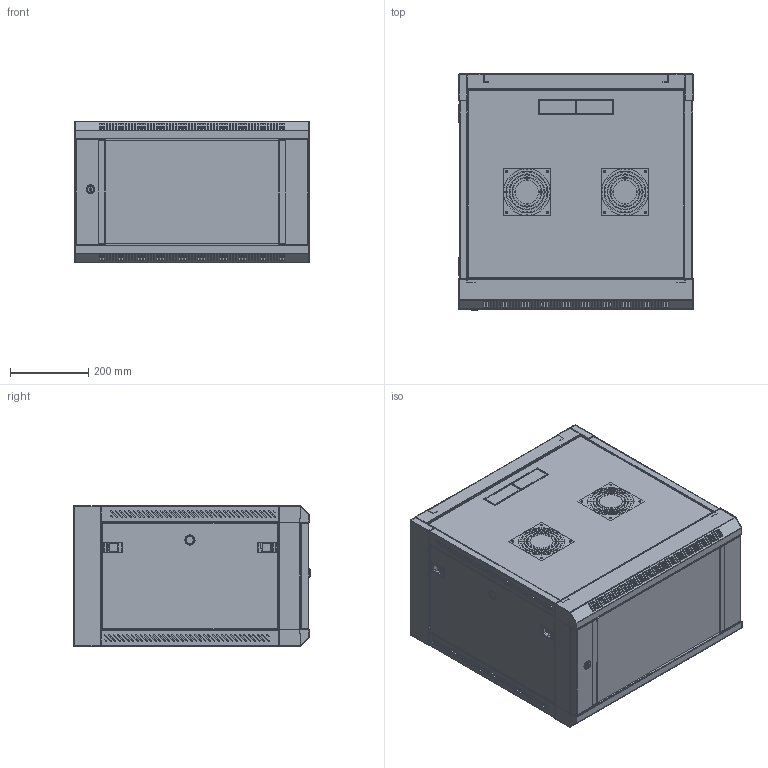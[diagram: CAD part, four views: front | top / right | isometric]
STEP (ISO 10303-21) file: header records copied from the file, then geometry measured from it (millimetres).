
FILE_DESCRIPTION( ( 'Unknown' ), '1' );
FILE_NAME( 'Q:/JAUNTY/JAW (WMC)/ASSMEBLIES/WMC1901023 (JAW6606).stp', 'Unknown', ( 'Unknown' ), ( 'Unknown' ), 'PSStep 16.0.42', 'Unknown', ' ' );
FILE_SCHEMA( ( 'AUTOMOTIVE_DESIGN { 1 0 10303 214 1 1 1 1 }' ) );
Length unit declared in the file: millimetre
Products named in the file (32): JFI10048; 1091-86-GESPANNT; 1091-87; JFI10059; JFI10059A; JFI10059C; JFI10059D; JFI10073B; JAW10121; JAW10113; JAW10119-1; JAW10122; JAW10111; JAW10112-1; JAW10109; JAW10107-2; JAW10107-1; JAW10136-1; JAW10118-1; JFI10049; JFI10066; JAW10120; JAW10115-1; JAW10116; Assem1; JAW10117-1; JAW10110-1; JAW10110-2; JAW10138-1; JFI10072; JDW10065
Assembly tree (50 placements, depth 4):
  Assem1
    JAW10117-1
    JAW10110-1
    JAW10110-2
    JAW10138-1  x4
    JFI10072  x2
    JDW10065
    JAW10120
      JAW10115-1  x2
      JAW10116  x2
    JAW10121  x2
      JAW10113
      JAW10119-1
    JAW10122
      JAW10111  x2
      JAW10112-1  x2
      JAW10109  x4
      JAW10107-2
      JAW10107-1
      JAW10136-1
      JFI10059
        JFI10059A
        JFI10059C
        JFI10059D
        JFI10073B
    JAW10118-1  x2
      JFI10049
      JAW10118-1
      JFI10066
      JFI10048
        1091-86-GESPANNT
        1091-87
Bounding box: 600.51 x 607.31 x 360.02 mm (x, y, z)
Volume: 3245012.8 mm3; surface area: 4677405.9 mm2
Topology: 57 solids, 57 shells, 4633 faces, 13087 edges, 8615 vertices
Faces by surface type: plane 3116, cylinder 1412, bspline 46, torus 32, cone 25, sphere 2
Full cylindrical faces by diameter (mm): 0.8 x8, 2.5 x8, 3.226 x8, 3.378 x8, 4.597 x68, 4.6 x8, 4.775 x8, 5 x1, 5.499 x4, 5.5 x4, 5.9 x12, 6 x1, 6.35 x4, 7 x8, 9.906 x4, 12.294 x1, 12.7 x3, 14.529 x1, 15.494 x1, 15.748 x1, 17.475 x1, 22.403 x1
Entity records: 85787 total; most frequent: CARTESIAN_POINT 17372, ORIENTED_EDGE 11090, DIRECTION 10955, EDGE_CURVE 5545, LINE 4167, VECTOR 4167, VERTEX_POINT 3666, AXIS2_PLACEMENT_3D 3394
